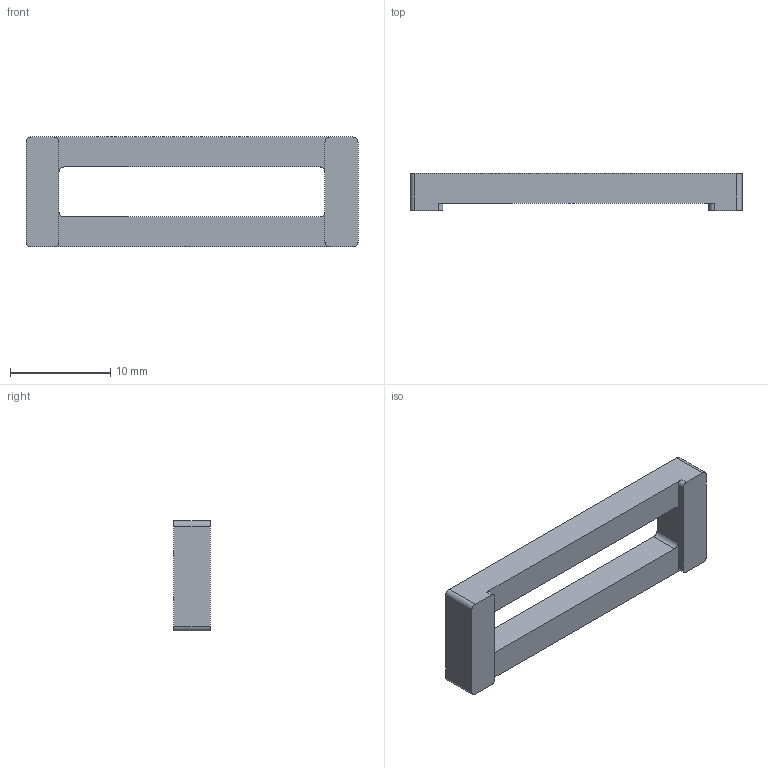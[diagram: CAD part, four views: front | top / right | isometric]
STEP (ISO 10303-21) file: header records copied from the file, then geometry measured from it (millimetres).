
FILE_DESCRIPTION(('Open CASCADE Model'),'2;1');
FILE_NAME('Open CASCADE Shape Model','2026-11-01T16:34:13',('Author'),( 'Open CASCADE'),'Open CASCADE STEP processor 8.0','build123d', 'Unknown');
FILE_SCHEMA(('AUTOMOTIVE_DESIGN { 1 0 10303 214 1 1 1 1 }'));
Length unit declared in the file: millimetre
Products named in the file (1): SOLID
Bounding box: 33.2 x 3.69 x 11 mm (x, y, z)
Volume: 742.9 mm3; surface area: 950.2 mm2
Topology: 1 solids, 1 shells, 25 faces, 80 edges, 56 vertices
Faces by surface type: plane 13, cylinder 12
Entity records: 1978 total; most frequent: CARTESIAN_POINT 390, DIRECTION 298, LINE 184, VECTOR 184, ORIENTED_EDGE 160, PCURVE 160, DEFINITIONAL_REPRESENTATION 160, EDGE_CURVE 80
